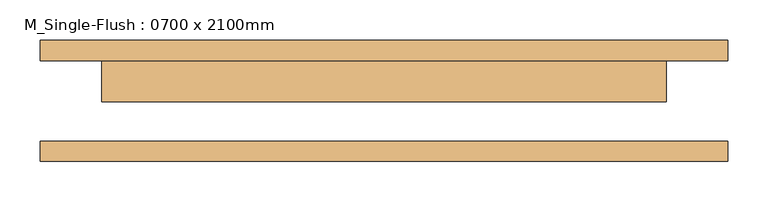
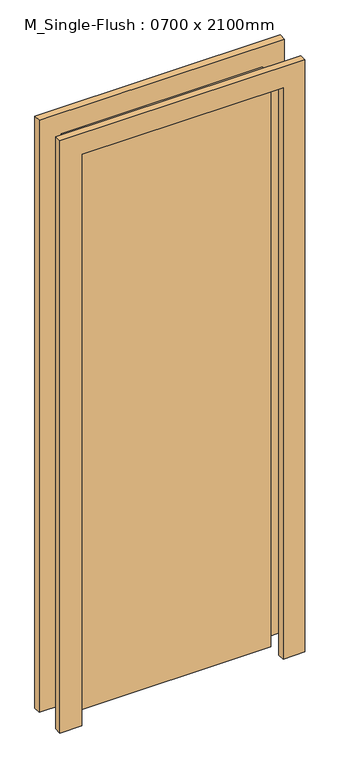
"""IFC4 building model written with IfcOpenShell, lengths in millimetres: door geometry, M_Single-Flush : 0700 x 2100mm."""

from ifc_helpers import new_model, si_unit, frame, origin, origin_with_axes, place, context, project, spatial, polyline, outline, extrude, source, transform, mapped, element, save


def m_single_flush_0700_x_2100mm_23326b45(model_context):
    return source(origin(), model_context, "Body", "SweptSolid", [
        extrude(outline(polyline([(2176.0, -426.0), (0.0, -426.0), (0.0, -350.0), (2100.0, -350.0), (2100.0, 350.0), (0.0, 350.0), (0.0, 426.0), (2176.0, 426.0), (2176.0, -426.0)])), frame((0.0, 50.0, 0.0), z_axis=(0.0, 1.0, 0.0), x_axis=(0.0, 0.0, 1.0)), (0.0, 0.0, 1.0), 25.0),
        extrude(outline(polyline([(2176.0, 426.0), (2176.0, -426.0), (0.0, -426.0), (0.0, -350.0), (2100.0, -350.0), (2100.0, 350.0), (0.0, 350.0), (0.0, 426.0), (2176.0, 426.0)])), frame((0.0, -75.0, 0.0), z_axis=(0.0, 1.0, 0.0), x_axis=(0.0, 0.0, 1.0)), (0.0, 0.0, 1.0), 25.0),
        extrude(outline(polyline([(350.0, -1.0), (-350.0, -1.0), (-350.0, 50.0), (350.0, 50.0), (350.0, -1.0)])), origin_with_axes(), (0.0, 0.0, 1.0), 2100.0),
    ])


if __name__ == "__main__":
    model = new_model("IFC4")
    model_context = context("Model", 3, world=origin())
    ifc_project = project(units=[si_unit("LENGTHUNIT", "METRE", prefix="MILLI")], contexts=[model_context])
    site = spatial("IfcSite", under=ifc_project)
    building = spatial("IfcBuilding", under=site)
    placement = place(None, origin())
    m_single_flush_0700_x_2100mm_shape = m_single_flush_0700_x_2100mm_23326b45(model_context)
    element("IfcDoor", 1, ObjectType="M_Single-Flush : 0700 x 2100mm", at=placement, inside=building, context=model_context, shape_type="MappedRepresentation", body=[
        mapped(m_single_flush_0700_x_2100mm_shape, transform((0.0, 0.0, 0.0), x_axis=(1.0, 0.0, 0.0), y_axis=(0.0, 1.0, 0.0), z_axis=(0.0, 0.0, 1.0))),
    ])
    save(model, "model.ifc")
